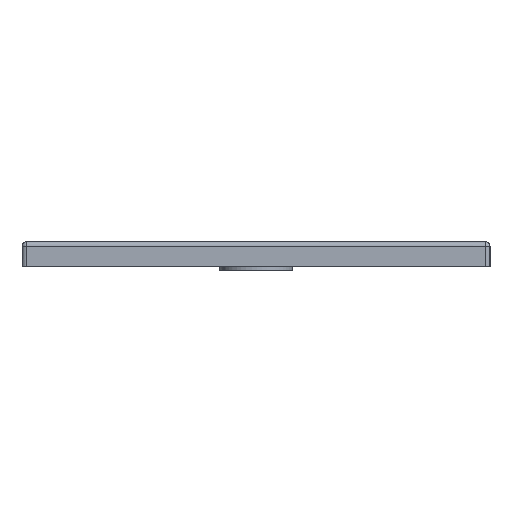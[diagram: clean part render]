
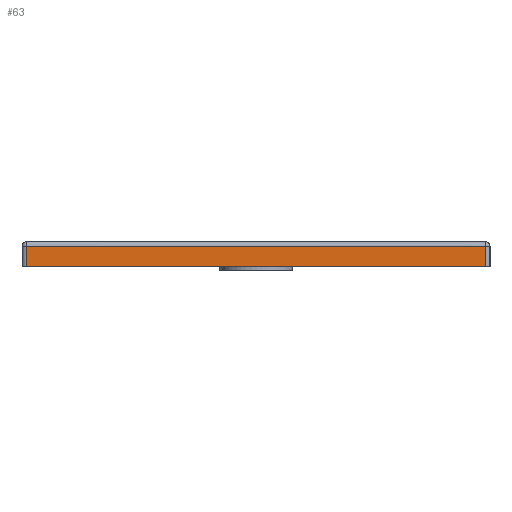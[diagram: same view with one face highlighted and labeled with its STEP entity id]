
A CAD part, left-side view. The second image highlights one B-rep face of the part: STEP entity #63.
In plain terms, the highlighted free-form (B-spline) face has degree [1, 1] with [2, 2] control points.
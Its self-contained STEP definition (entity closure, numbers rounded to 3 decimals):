
#63=ADVANCED_FACE('',(#104),#1195,.T.);
#104=FACE_OUTER_BOUND('',#148,.T.);
#148=EDGE_LOOP('',(#298,#299,#300,#301));
#298=ORIENTED_EDGE('',*,*,#1012,.F.);
#299=ORIENTED_EDGE('',*,*,#1029,.F.);
#300=ORIENTED_EDGE('',*,*,#1014,.F.);
#301=ORIENTED_EDGE('',*,*,#1044,.T.);
#431=B_SPLINE_CURVE_WITH_KNOTS('',1,(#5426,#5427),.UNSPECIFIED.,.F.,.F.,
(2,2),(0.,33.),.UNSPECIFIED.);
#432=B_SPLINE_CURVE_WITH_KNOTS('',1,(#5428,#5429),.UNSPECIFIED.,.F.,.F.,
(2,2),(0.,33.),.UNSPECIFIED.);
#434=B_SPLINE_CURVE_WITH_KNOTS('',1,(#5435,#5436),.UNSPECIFIED.,.F.,.F.,
(2,2),(-33.,0.),.UNSPECIFIED.);
#435=B_SPLINE_CURVE_WITH_KNOTS('',1,(#5437,#5438),.UNSPECIFIED.,.F.,.F.,
(2,2),(-33.,0.),.UNSPECIFIED.);
#459=B_SPLINE_CURVE_WITH_KNOTS('',1,(#5506,#5507),.UNSPECIFIED.,.F.,.F.,
(2,2),(0.,736.),.UNSPECIFIED.);
#460=B_SPLINE_CURVE_WITH_KNOTS('',1,(#5508,#5509),.UNSPECIFIED.,.F.,.F.,
(2,2),(0.,736.),.UNSPECIFIED.);
#498=B_SPLINE_CURVE_WITH_KNOTS('',1,(#5605,#5606),.UNSPECIFIED.,.F.,.F.,
(2,2),(0.,33.),.UNSPECIFIED.);
#499=B_SPLINE_CURVE_WITH_KNOTS('',1,(#5607,#5608),.UNSPECIFIED.,.F.,.F.,
(2,2),(0.,736.),.UNSPECIFIED.);
#500=B_SPLINE_CURVE_WITH_KNOTS('',1,(#5609,#5610),.UNSPECIFIED.,.F.,.F.,
(2,2),(-33.,0.),.UNSPECIFIED.);
#501=B_SPLINE_CURVE_WITH_KNOTS('',1,(#5611,#5612),.UNSPECIFIED.,.F.,.F.,
(2,2),(0.,736.),.UNSPECIFIED.);
#502=B_SPLINE_CURVE_WITH_KNOTS('',1,(#5613,#5614),.UNSPECIFIED.,.F.,.F.,
(2,2),(0.,736.),.UNSPECIFIED.);
#622=PCURVE('',#1175,#792);
#624=PCURVE('',#1176,#794);
#641=PCURVE('',#1179,#811);
#672=PCURVE('',#1195,#842);
#673=PCURVE('',#1195,#843);
#674=PCURVE('',#1195,#844);
#675=PCURVE('',#1195,#845);
#792=DEFINITIONAL_REPRESENTATION('',(#432),#5684);
#794=DEFINITIONAL_REPRESENTATION('',(#435),#5684);
#811=DEFINITIONAL_REPRESENTATION('',(#460),#5684);
#842=DEFINITIONAL_REPRESENTATION('',(#498),#5684);
#843=DEFINITIONAL_REPRESENTATION('',(#499),#5684);
#844=DEFINITIONAL_REPRESENTATION('',(#500),#5684);
#845=DEFINITIONAL_REPRESENTATION('',(#502),#5684);
#922=SURFACE_CURVE('',#431,(#622,#672),.PCURVE_S1.);
#924=SURFACE_CURVE('',#434,(#624,#674),.PCURVE_S1.);
#939=SURFACE_CURVE('',#459,(#641,#673),.PCURVE_S1.);
#954=SURFACE_CURVE('',#501,(#675),.PCURVE_S1.);
#1012=EDGE_CURVE('',#1141,#1140,#922,.T.);
#1014=EDGE_CURVE('',#1143,#1145,#924,.T.);
#1029=EDGE_CURVE('',#1145,#1141,#939,.T.);
#1044=EDGE_CURVE('',#1143,#1140,#954,.T.);
#1140=VERTEX_POINT('',#4829);
#1141=VERTEX_POINT('',#4830);
#1143=VERTEX_POINT('',#4832);
#1145=VERTEX_POINT('',#4834);
#1175=(
BOUNDED_SURFACE()
B_SPLINE_SURFACE(2,1,((#4148,#4149),(#4150,#4151),(#4152,#4153),(#4154,
#4155),(#4156,#4157),(#4158,#4159),(#4160,#4161),(#4162,#4163),(#4164,#4165)),
 .UNSPECIFIED.,.T.,.F.,.F.)
B_SPLINE_SURFACE_WITH_KNOTS((3,2,2,2,3),(2,2),(0.,1.571,3.142,
4.712,6.283),(0.,39.72),.UNSPECIFIED.)
GEOMETRIC_REPRESENTATION_ITEM()
RATIONAL_B_SPLINE_SURFACE(((1.,1.),(0.707,0.707),
(1.,1.),(0.707,0.707),(1.,1.),(0.707,
0.707),(1.,1.),(0.707,0.707),(1.,1.)))
REPRESENTATION_ITEM('')
SURFACE()
);
#1176=(
BOUNDED_SURFACE()
B_SPLINE_SURFACE(2,1,((#4166,#4167),(#4168,#4169),(#4170,#4171),(#4172,
#4173),(#4174,#4175),(#4176,#4177),(#4178,#4179),(#4180,#4181),(#4182,#4183)),
 .UNSPECIFIED.,.T.,.F.,.F.)
B_SPLINE_SURFACE_WITH_KNOTS((3,2,2,2,3),(2,2),(0.,1.571,3.142,
4.712,6.283),(0.,39.72),.UNSPECIFIED.)
GEOMETRIC_REPRESENTATION_ITEM()
RATIONAL_B_SPLINE_SURFACE(((1.,1.),(0.707,0.707),
(1.,1.),(0.707,0.707),(1.,1.),(0.707,
0.707),(1.,1.),(0.707,0.707),(1.,1.)))
REPRESENTATION_ITEM('')
SURFACE()
);
#1179=(
BOUNDED_SURFACE()
B_SPLINE_SURFACE(2,1,((#4224,#4225),(#4226,#4227),(#4228,#4229),(#4230,
#4231),(#4232,#4233),(#4234,#4235),(#4236,#4237),(#4238,#4239),(#4240,#4241)),
 .UNSPECIFIED.,.T.,.F.,.F.)
B_SPLINE_SURFACE_WITH_KNOTS((3,2,2,2,3),(2,2),(0.,1.571,3.142,
4.712,6.283),(0.,883.32),.UNSPECIFIED.)
GEOMETRIC_REPRESENTATION_ITEM()
RATIONAL_B_SPLINE_SURFACE(((1.,1.),(0.707,0.707),
(1.,1.),(0.707,0.707),(1.,1.),(0.707,
0.707),(1.,1.),(0.707,0.707),(1.,1.)))
REPRESENTATION_ITEM('')
SURFACE()
);
#1195=B_SPLINE_SURFACE_WITH_KNOTS('',1,1,((#4480,#4481),(#4482,#4483)),
 .UNSPECIFIED.,.F.,.F.,.F.,(2,2),(2,2),(3.64,43.36),(-66.66,816.66),
 .UNSPECIFIED.);
#4148=CARTESIAN_POINT('',(-436.,-368.,-3.64));
#4149=CARTESIAN_POINT('',(-436.,-368.,-43.36));
#4150=CARTESIAN_POINT('',(-436.,-375.,-3.64));
#4151=CARTESIAN_POINT('',(-436.,-375.,-43.36));
#4152=CARTESIAN_POINT('',(-443.,-375.,-3.64));
#4153=CARTESIAN_POINT('',(-443.,-375.,-43.36));
#4154=CARTESIAN_POINT('',(-450.,-375.,-3.64));
#4155=CARTESIAN_POINT('',(-450.,-375.,-43.36));
#4156=CARTESIAN_POINT('',(-450.,-368.,-3.64));
#4157=CARTESIAN_POINT('',(-450.,-368.,-43.36));
#4158=CARTESIAN_POINT('',(-450.,-361.,-3.64));
#4159=CARTESIAN_POINT('',(-450.,-361.,-43.36));
#4160=CARTESIAN_POINT('',(-443.,-361.,-3.64));
#4161=CARTESIAN_POINT('',(-443.,-361.,-43.36));
#4162=CARTESIAN_POINT('',(-436.,-361.,-3.64));
#4163=CARTESIAN_POINT('',(-436.,-361.,-43.36));
#4164=CARTESIAN_POINT('',(-436.,-368.,-3.64));
#4165=CARTESIAN_POINT('',(-436.,-368.,-43.36));
#4166=CARTESIAN_POINT('',(-436.,368.,-3.64));
#4167=CARTESIAN_POINT('',(-436.,368.,-43.36));
#4168=CARTESIAN_POINT('',(-436.,361.,-3.64));
#4169=CARTESIAN_POINT('',(-436.,361.,-43.36));
#4170=CARTESIAN_POINT('',(-443.,361.,-3.64));
#4171=CARTESIAN_POINT('',(-443.,361.,-43.36));
#4172=CARTESIAN_POINT('',(-450.,361.,-3.64));
#4173=CARTESIAN_POINT('',(-450.,361.,-43.36));
#4174=CARTESIAN_POINT('',(-450.,368.,-3.64));
#4175=CARTESIAN_POINT('',(-450.,368.,-43.36));
#4176=CARTESIAN_POINT('',(-450.,375.,-3.64));
#4177=CARTESIAN_POINT('',(-450.,375.,-43.36));
#4178=CARTESIAN_POINT('',(-443.,375.,-3.64));
#4179=CARTESIAN_POINT('',(-443.,375.,-43.36));
#4180=CARTESIAN_POINT('',(-436.,375.,-3.64));
#4181=CARTESIAN_POINT('',(-436.,375.,-43.36));
#4182=CARTESIAN_POINT('',(-436.,368.,-3.64));
#4183=CARTESIAN_POINT('',(-436.,368.,-43.36));
#4224=CARTESIAN_POINT('',(-443.,441.66,-14.));
#4225=CARTESIAN_POINT('',(-443.,-441.66,-14.));
#4226=CARTESIAN_POINT('',(-436.,441.66,-14.));
#4227=CARTESIAN_POINT('',(-436.,-441.66,-14.));
#4228=CARTESIAN_POINT('',(-436.,441.66,-7.));
#4229=CARTESIAN_POINT('',(-436.,-441.66,-7.));
#4230=CARTESIAN_POINT('',(-436.,441.66,0.));
#4231=CARTESIAN_POINT('',(-436.,-441.66,0.));
#4232=CARTESIAN_POINT('',(-443.,441.66,0.));
#4233=CARTESIAN_POINT('',(-443.,-441.66,0.));
#4234=CARTESIAN_POINT('',(-450.,441.66,0.));
#4235=CARTESIAN_POINT('',(-450.,-441.66,0.));
#4236=CARTESIAN_POINT('',(-450.,441.66,-7.));
#4237=CARTESIAN_POINT('',(-450.,-441.66,-7.));
#4238=CARTESIAN_POINT('',(-450.,441.66,-14.));
#4239=CARTESIAN_POINT('',(-450.,-441.66,-14.));
#4240=CARTESIAN_POINT('',(-443.,441.66,-14.));
#4241=CARTESIAN_POINT('',(-443.,-441.66,-14.));
#4480=CARTESIAN_POINT('',(-450.,441.66,-3.64));
#4481=CARTESIAN_POINT('',(-450.,-441.66,-3.64));
#4482=CARTESIAN_POINT('',(-450.,441.66,-43.36));
#4483=CARTESIAN_POINT('',(-450.,-441.66,-43.36));
#4829=CARTESIAN_POINT('',(-450.,-368.,-40.));
#4830=CARTESIAN_POINT('',(-450.,-368.,-7.));
#4832=CARTESIAN_POINT('',(-450.,368.,-40.));
#4834=CARTESIAN_POINT('',(-450.,368.,-7.));
#5426=CARTESIAN_POINT('',(-450.,-368.,-7.));
#5427=CARTESIAN_POINT('',(-450.,-368.,-40.));
#5428=CARTESIAN_POINT('',(3.142,3.36));
#5429=CARTESIAN_POINT('',(3.142,36.36));
#5435=CARTESIAN_POINT('',(-450.,368.,-40.));
#5436=CARTESIAN_POINT('',(-450.,368.,-7.));
#5437=CARTESIAN_POINT('',(3.142,36.36));
#5438=CARTESIAN_POINT('',(3.142,3.36));
#5506=CARTESIAN_POINT('',(-450.,368.,-7.));
#5507=CARTESIAN_POINT('',(-450.,-368.,-7.));
#5508=CARTESIAN_POINT('',(4.712,73.66));
#5509=CARTESIAN_POINT('',(4.712,809.66));
#5605=CARTESIAN_POINT('',(7.,743.));
#5606=CARTESIAN_POINT('',(40.,743.));
#5607=CARTESIAN_POINT('',(7.,7.));
#5608=CARTESIAN_POINT('',(7.,743.));
#5609=CARTESIAN_POINT('',(40.,7.));
#5610=CARTESIAN_POINT('',(7.,7.));
#5611=CARTESIAN_POINT('',(-450.,368.,-40.));
#5612=CARTESIAN_POINT('',(-450.,-368.,-40.));
#5613=CARTESIAN_POINT('',(40.,7.));
#5614=CARTESIAN_POINT('',(40.,743.));
#5684=(
GEOMETRIC_REPRESENTATION_CONTEXT(2)
PARAMETRIC_REPRESENTATION_CONTEXT()
REPRESENTATION_CONTEXT('pspace','')
);
